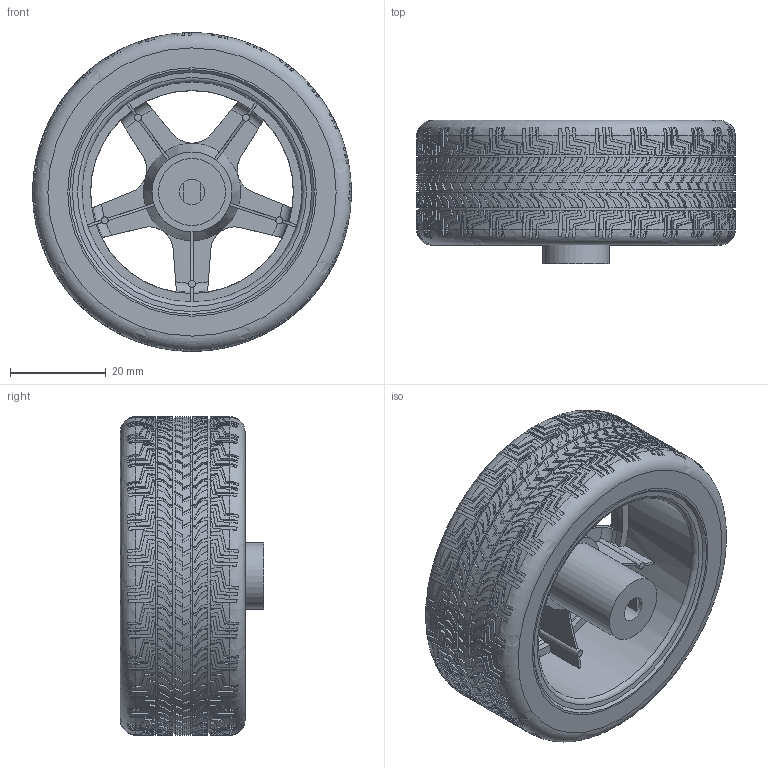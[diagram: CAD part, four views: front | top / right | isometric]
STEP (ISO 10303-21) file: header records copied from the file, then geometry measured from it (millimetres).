
FILE_DESCRIPTION(/* description */ ('Alibre Inc.'),/* implementation_level */ '2;1');
FILE_NAME(/* name */ 'export0',/* time_stamp */ '2013-04-30T16:48:17-06:00',/* author */ (''),/* organization */ (''),/* preprocessor_version */ 'ST-DEVELOPER v14',/* originating_system */ 'Alibre',/* authorisation */ '');
FILE_SCHEMA (('CONFIG_CONTROL_DESIGN'));
Length unit declared in the file: centimetre
Products named in the file (3): ID_1; ID_2
Bounding box: 66.55 x 29.95 x 66.55 mm (x, y, z)
Volume: 21028.1 mm3; surface area: 37409.8 mm2
Topology: 2 solids, 2 shells, 3494 faces, 10058 edges, 6587 vertices
Faces by surface type: plane 2635, bspline 410, cylinder 389, torus 30, cone 30
Full cylindrical faces by diameter (mm): 1.459 x5, 5.283 x1, 9.881 x1, 13.97 x1, 16.688 x1, 45.974 x1, 47.854 x2, 49.886 x2, 51.918 x6, 54.178 x2, 63.5 x3, 64.516 x4, 66.553 x1
Entity records: 121801 total; most frequent: CARTESIAN_POINT 39973, ORIENTED_EDGE 19970, DIRECTION 12243, EDGE_CURVE 9985, VERTEX_POINT 6570, VECTOR 5663, LINE 5663, AXIS2_PLACEMENT_3D 4448
